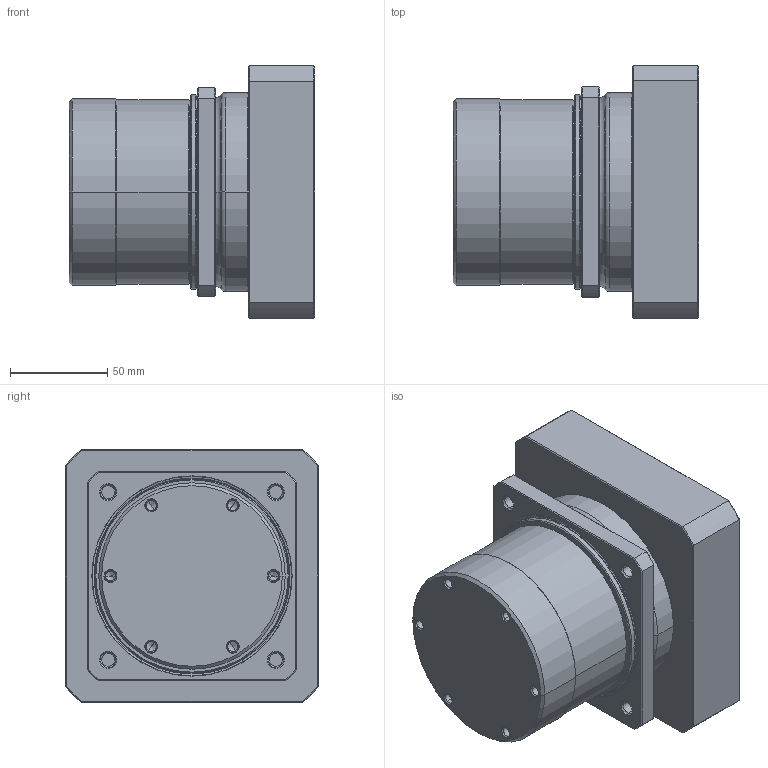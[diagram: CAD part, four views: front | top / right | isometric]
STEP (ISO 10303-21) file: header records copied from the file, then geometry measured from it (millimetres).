
FILE_DESCRIPTION((''),'2;1');
FILE_NAME('GL100_1ST_24-P0409511808_ASM','2020-10-30T',('D00280'),(''),'PRO/ENGINEER BY PARAMETRIC TECHNOLOGY CORPORATION, 2015240','PRO/ENGINEER BY PARAMETRIC TECHNOLOGY CORPORATION, 2015240','');
FILE_SCHEMA(('CONFIG_CONTROL_DESIGN'));
Length unit declared in the file: millimetre
Products named in the file (7): P0247300001_D; P0349300001_D; P1503300301_D; P0409511808; P0503500010_D; P0912353001_D; GL100_1ST_24-P0409511808_ASM
Assembly tree (6 placements, depth 2):
  GL100_1ST_24-P0409511808_ASM
    P0247300001_D
    P0349300001_D
    P1503300301_D
    P0409511808
    P0503500010_D
    P0912353001_D
Bounding box: 126.5 x 130 x 130 mm (x, y, z)
Volume: 1097787 mm3; surface area: 169200.8 mm2
Topology: 6 solids, 22 shells, 345 faces, 808 edges, 490 vertices
Faces by surface type: cylinder 132, cone 109, plane 76, torus 16, bspline 12
Entity records: 14680 total; most frequent: CARTESIAN_POINT 6544, DIRECTION 1811, ORIENTED_EDGE 1512, EDGE_CURVE 788, AXIS2_PLACEMENT_3D 752, VERTEX_POINT 490, EDGE_LOOP 408, CIRCLE 398
